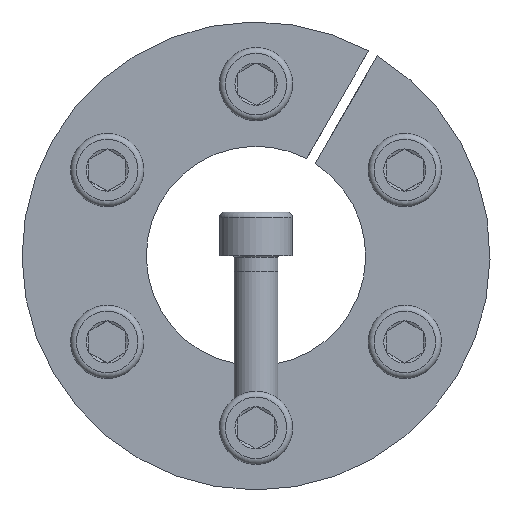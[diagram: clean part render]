
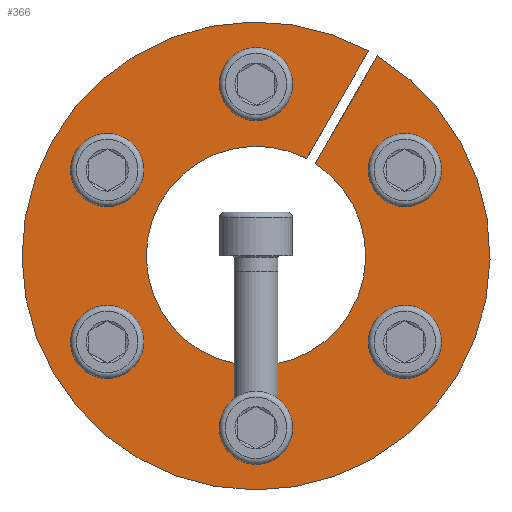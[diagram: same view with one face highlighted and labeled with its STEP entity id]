
A CAD part, front view. The second image highlights one B-rep face of the part: STEP entity #366.
In plain terms, the highlighted planar face has unit normal (0, -1, 0).
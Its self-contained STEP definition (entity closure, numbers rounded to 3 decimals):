
#366 = ADVANCED_FACE( '', ( #569, #570, #571, #572, #573, #574, #575 ), #576, .F. );
#569 = FACE_BOUND( '', #713, .T. );
#570 = FACE_BOUND( '', #714, .T. );
#571 = FACE_BOUND( '', #715, .T. );
#572 = FACE_BOUND( '', #716, .T. );
#573 = FACE_BOUND( '', #717, .T. );
#574 = FACE_BOUND( '', #718, .T. );
#575 = FACE_OUTER_BOUND( '', #719, .T. );
#576 = PLANE( '', #720 );
#713 = EDGE_LOOP( '', ( #896 ) );
#714 = EDGE_LOOP( '', ( #897 ) );
#715 = EDGE_LOOP( '', ( #898 ) );
#716 = EDGE_LOOP( '', ( #899 ) );
#717 = EDGE_LOOP( '', ( #900 ) );
#718 = EDGE_LOOP( '', ( #901 ) );
#719 = EDGE_LOOP( '', ( #902, #903, #904, #905 ) );
#720 = AXIS2_PLACEMENT_3D( '', #906, #907, #908 );
#896 = ORIENTED_EDGE( '', *, *, #1210, .T. );
#897 = ORIENTED_EDGE( '', *, *, #1211, .T. );
#898 = ORIENTED_EDGE( '', *, *, #1212, .T. );
#899 = ORIENTED_EDGE( '', *, *, #1213, .T. );
#900 = ORIENTED_EDGE( '', *, *, #1214, .T. );
#901 = ORIENTED_EDGE( '', *, *, #1215, .T. );
#902 = ORIENTED_EDGE( '', *, *, #1216, .T. );
#903 = ORIENTED_EDGE( '', *, *, #1217, .T. );
#904 = ORIENTED_EDGE( '', *, *, #1202, .T. );
#905 = ORIENTED_EDGE( '', *, *, #1218, .F. );
#906 = CARTESIAN_POINT( '', ( 0., 0., 32. ) );
#907 = DIRECTION( '', ( 0., 1., 0. ) );
#908 = DIRECTION( '', ( 0., 0., 1. ) );
#1202 = EDGE_CURVE( '', #1331, #1329, #1332, .T. );
#1210 = EDGE_CURVE( '', #1345, #1345, #1346, .T. );
#1211 = EDGE_CURVE( '', #1347, #1347, #1348, .T. );
#1212 = EDGE_CURVE( '', #1349, #1349, #1350, .T. );
#1213 = EDGE_CURVE( '', #1351, #1351, #1352, .T. );
#1214 = EDGE_CURVE( '', #1353, #1353, #1354, .T. );
#1215 = EDGE_CURVE( '', #1355, #1355, #1356, .T. );
#1216 = EDGE_CURVE( '', #1357, #1358, #1359, .T. );
#1217 = EDGE_CURVE( '', #1358, #1331, #1360, .T. );
#1218 = EDGE_CURVE( '', #1357, #1329, #1361, .T. );
#1329 = VERTEX_POINT( '', #1429 );
#1331 = VERTEX_POINT( '', #1432 );
#1332 = LINE( '', #1433, #1434 );
#1345 = VERTEX_POINT( '', #1458 );
#1346 = CIRCLE( '', #1459, 3. );
#1347 = VERTEX_POINT( '', #1460 );
#1348 = CIRCLE( '', #1461, 3. );
#1349 = VERTEX_POINT( '', #1462 );
#1350 = CIRCLE( '', #1463, 3. );
#1351 = VERTEX_POINT( '', #1464 );
#1352 = CIRCLE( '', #1465, 3. );
#1353 = VERTEX_POINT( '', #1466 );
#1354 = CIRCLE( '', #1467, 3. );
#1355 = VERTEX_POINT( '', #1468 );
#1356 = CIRCLE( '', #1469, 3. );
#1357 = VERTEX_POINT( '', #1470 );
#1358 = VERTEX_POINT( '', #1471 );
#1359 = LINE( '', #1472, #1473 );
#1360 = CIRCLE( '', #1474, 32. );
#1361 = CIRCLE( '', #1475, 15. );
#1429 = CARTESIAN_POINT( '', ( 8.088, 0., 12.633 ) );
#1432 = CARTESIAN_POINT( '', ( 16.592, 0., 27.363 ) );
#1433 = CARTESIAN_POINT( '', ( 16.595, 0., 27.369 ) );
#1434 = VECTOR( '', #1559, 1000. );
#1458 = CARTESIAN_POINT( '', ( -18.852, 0., 14.348 ) );
#1459 = AXIS2_PLACEMENT_3D( '', #1565, #1566, #1567 );
#1460 = CARTESIAN_POINT( '', ( -3., 0., -23.5 ) );
#1461 = AXIS2_PLACEMENT_3D( '', #1568, #1569, #1570 );
#1462 = CARTESIAN_POINT( '', ( 21.852, 0., 9.152 ) );
#1463 = AXIS2_PLACEMENT_3D( '', #1571, #1572, #1573 );
#1464 = CARTESIAN_POINT( '', ( 3., 0., 23.5 ) );
#1465 = AXIS2_PLACEMENT_3D( '', #1574, #1575, #1576 );
#1466 = CARTESIAN_POINT( '', ( 18.852, 0., -14.348 ) );
#1467 = AXIS2_PLACEMENT_3D( '', #1577, #1578, #1579 );
#1468 = CARTESIAN_POINT( '', ( -21.852, 0., -9.152 ) );
#1469 = AXIS2_PLACEMENT_3D( '', #1580, #1581, #1582 );
#1470 = CARTESIAN_POINT( '', ( 6.897, 0., 13.32 ) );
#1471 = CARTESIAN_POINT( '', ( 15.401, 0., 28.05 ) );
#1472 = CARTESIAN_POINT( '', ( 6.897, 0., 13.32 ) );
#1473 = VECTOR( '', #1583, 1000. );
#1474 = AXIS2_PLACEMENT_3D( '', #1584, #1585, #1586 );
#1475 = AXIS2_PLACEMENT_3D( '', #1587, #1588, #1589 );
#1559 = DIRECTION( '', ( -0.5, 0., -0.866 ) );
#1565 = CARTESIAN_POINT( '', ( -20.352, 0., 11.75 ) );
#1566 = DIRECTION( '', ( 0., 1., 0. ) );
#1567 = DIRECTION( '', ( 0.5, 0., 0.866 ) );
#1568 = CARTESIAN_POINT( '', ( 0., 0., -23.5 ) );
#1569 = DIRECTION( '', ( 0., 1., 0. ) );
#1570 = DIRECTION( '', ( -1., 0., 0. ) );
#1571 = CARTESIAN_POINT( '', ( 20.352, 0., 11.75 ) );
#1572 = DIRECTION( '', ( 0., 1., 0. ) );
#1573 = DIRECTION( '', ( 0.5, 0., -0.866 ) );
#1574 = CARTESIAN_POINT( '', ( 0., 0., 23.5 ) );
#1575 = DIRECTION( '', ( 0., 1., 0. ) );
#1576 = DIRECTION( '', ( 1., 0., 0. ) );
#1577 = CARTESIAN_POINT( '', ( 20.352, 0., -11.75 ) );
#1578 = DIRECTION( '', ( 0., 1., 0. ) );
#1579 = DIRECTION( '', ( -0.5, 0., -0.866 ) );
#1580 = CARTESIAN_POINT( '', ( -20.352, 0., -11.75 ) );
#1581 = DIRECTION( '', ( 0., 1., 0. ) );
#1582 = DIRECTION( '', ( -0.5, 0., 0.866 ) );
#1583 = DIRECTION( '', ( 0.5, 0., 0.866 ) );
#1584 = CARTESIAN_POINT( '', ( 0., 0., 0. ) );
#1585 = DIRECTION( '', ( 0., -1., 0. ) );
#1586 = DIRECTION( '', ( 0., 0., -1. ) );
#1587 = CARTESIAN_POINT( '', ( 0., 0., 0. ) );
#1588 = DIRECTION( '', ( 0., -1., 0. ) );
#1589 = DIRECTION( '', ( 0., 0., -1. ) );
